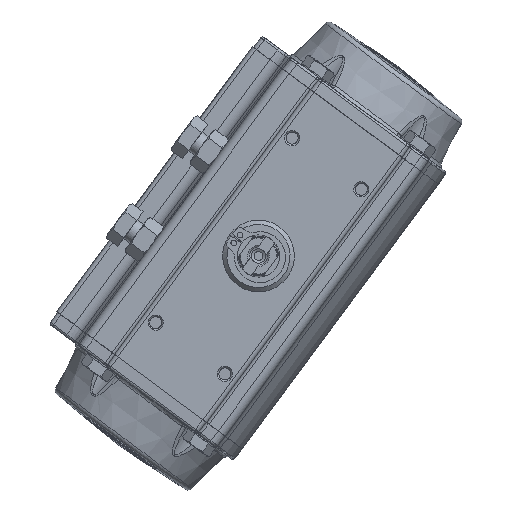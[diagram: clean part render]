
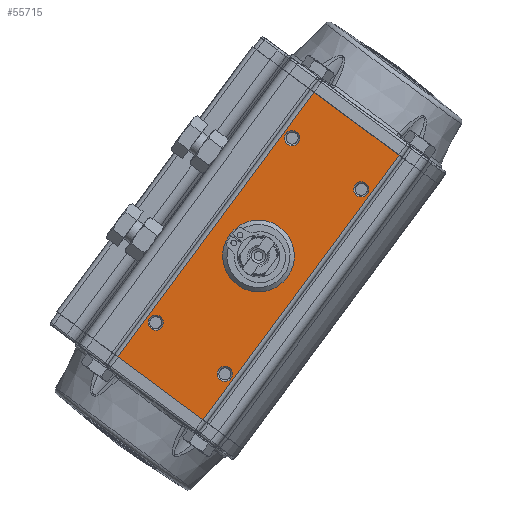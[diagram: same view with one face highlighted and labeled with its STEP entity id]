
A CAD part, left-side view. The second image highlights one B-rep face of the part: STEP entity #55715.
In plain terms, the highlighted planar face has unit normal (-1, 0, 0).
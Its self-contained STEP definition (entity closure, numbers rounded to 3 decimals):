
#8148=CARTESIAN_POINT('',(-110.377,11.08,52.355));
#8149=VERTEX_POINT('',#8148);
#8150=CARTESIAN_POINT('',(-110.377,21.13,59.787));
#8151=DIRECTION('',(1.0,0.,0.));
#8152=DIRECTION('',(0.,-0.804,-0.595));
#8153=AXIS2_PLACEMENT_3D('',#8150,#8151,#8152);
#8154=CIRCLE('',#8153,12.5);
#8155=EDGE_CURVE('',#8149,#8149,#8154,.T.);
#8187=CARTESIAN_POINT('',(-110.377,31.277,20.837));
#8188=VERTEX_POINT('',#8187);
#8189=CARTESIAN_POINT('',(-110.377,32.852,18.707));
#8190=DIRECTION('',(1.0,0.,0.));
#8191=DIRECTION('',(0.,-0.595,0.804));
#8192=AXIS2_PLACEMENT_3D('',#8189,#8190,#8191);
#8193=CIRCLE('',#8192,2.65);
#8194=EDGE_CURVE('',#8188,#8188,#8193,.T.);
#8215=CARTESIAN_POINT('',(-110.377,55.398,38.675));
#8216=VERTEX_POINT('',#8215);
#8217=CARTESIAN_POINT('',(-110.377,56.974,36.544));
#8218=DIRECTION('',(1.0,0.,0.));
#8219=DIRECTION('',(0.,-0.595,0.804));
#8220=AXIS2_PLACEMENT_3D('',#8217,#8218,#8219);
#8221=CIRCLE('',#8220,2.65);
#8222=EDGE_CURVE('',#8216,#8216,#8221,.T.);
#8243=CARTESIAN_POINT('',(-110.377,7.833,102.998));
#8244=VERTEX_POINT('',#8243);
#8245=CARTESIAN_POINT('',(-110.377,9.408,100.867));
#8246=DIRECTION('',(1.0,0.,0.));
#8247=DIRECTION('',(0.,-0.595,0.804));
#8248=AXIS2_PLACEMENT_3D('',#8245,#8246,#8247);
#8249=CIRCLE('',#8248,2.65);
#8250=EDGE_CURVE('',#8244,#8244,#8249,.T.);
#8271=CARTESIAN_POINT('',(-110.377,-16.289,85.161));
#8272=VERTEX_POINT('',#8271);
#8273=CARTESIAN_POINT('',(-110.377,-14.713,83.03));
#8274=DIRECTION('',(1.0,0.,0.));
#8275=DIRECTION('',(0.,-0.595,0.804));
#8276=AXIS2_PLACEMENT_3D('',#8273,#8274,#8275);
#8277=CIRCLE('',#8276,2.65);
#8278=EDGE_CURVE('',#8272,#8272,#8277,.T.);
#48077=CARTESIAN_POINT('',(-110.377,1.877,116.939));
#48078=VERTEX_POINT('',#48077);
#48086=CARTESIAN_POINT('',(-110.377,-27.873,94.94));
#48087=VERTEX_POINT('',#48086);
#48088=CARTESIAN_POINT('',(-110.377,-27.873,94.94));
#48089=DIRECTION('',(0.,0.804,0.595));
#48090=VECTOR('',#48089,37.0);
#48091=LINE('',#48088,#48090);
#48092=EDGE_CURVE('',#48087,#48078,#48091,.T.);
#48488=CARTESIAN_POINT('',(-110.377,70.133,24.634));
#48489=VERTEX_POINT('',#48488);
#48490=CARTESIAN_POINT('',(-110.377,1.877,116.939));
#48491=DIRECTION('',(0.,0.595,-0.804));
#48492=VECTOR('',#48491,114.8);
#48493=LINE('',#48490,#48492);
#48494=EDGE_CURVE('',#48078,#48489,#48493,.T.);
#49380=CARTESIAN_POINT('',(-110.377,40.384,2.635));
#49381=VERTEX_POINT('',#49380);
#49382=CARTESIAN_POINT('',(-110.377,40.384,2.635));
#49383=DIRECTION('',(0.,-0.595,0.804));
#49384=VECTOR('',#49383,114.8);
#49385=LINE('',#49382,#49384);
#49386=EDGE_CURVE('',#49381,#48087,#49385,.T.);
#55650=CARTESIAN_POINT('',(-110.377,70.013,24.545));
#55651=VERTEX_POINT('',#55650);
#55670=CARTESIAN_POINT('',(-110.377,70.133,24.634));
#55671=DIRECTION('',(-1.0,0.0,0.0));
#55672=DIRECTION('',(0.0,-0.595,0.804));
#55673=AXIS2_PLACEMENT_3D('',#55670,#55671,#55672);
#55674=PLANE('',#55673);
#55675=CARTESIAN_POINT('',(-110.377,40.545,2.754));
#55676=VERTEX_POINT('',#55675);
#55677=CARTESIAN_POINT('',(-110.377,40.384,2.635));
#55678=DIRECTION('',(0.0,0.804,0.595));
#55679=VECTOR('',#55678,0.2);
#55680=LINE('',#55677,#55679);
#55681=EDGE_CURVE('',#49381,#55676,#55680,.T.);
#55682=ORIENTED_EDGE('',*,*,#55681,.F.);
#55683=ORIENTED_EDGE('',*,*,#49386,.T.);
#55684=ORIENTED_EDGE('',*,*,#48092,.T.);
#55685=ORIENTED_EDGE('',*,*,#48494,.T.);
#55686=CARTESIAN_POINT('',(-110.377,70.013,24.545));
#55687=DIRECTION('',(0.0,0.804,0.595));
#55688=VECTOR('',#55687,0.15);
#55689=LINE('',#55686,#55688);
#55690=EDGE_CURVE('',#55651,#48489,#55689,.T.);
#55691=ORIENTED_EDGE('',*,*,#55690,.F.);
#55692=CARTESIAN_POINT('',(-110.377,70.013,24.545));
#55693=DIRECTION('',(0.,-0.804,-0.595));
#55694=VECTOR('',#55693,36.65);
#55695=LINE('',#55692,#55694);
#55696=EDGE_CURVE('',#55651,#55676,#55695,.T.);
#55697=ORIENTED_EDGE('',*,*,#55696,.T.);
#55698=EDGE_LOOP('',(#55682,#55683,#55684,#55685,#55691,#55697));
#55699=FACE_OUTER_BOUND('',#55698,.T.);
#55700=ORIENTED_EDGE('',*,*,#8194,.T.);
#55701=EDGE_LOOP('',(#55700));
#55702=FACE_BOUND('',#55701,.T.);
#55703=ORIENTED_EDGE('',*,*,#8222,.T.);
#55704=EDGE_LOOP('',(#55703));
#55705=FACE_BOUND('',#55704,.T.);
#55706=ORIENTED_EDGE('',*,*,#8250,.T.);
#55707=EDGE_LOOP('',(#55706));
#55708=FACE_BOUND('',#55707,.T.);
#55709=ORIENTED_EDGE('',*,*,#8278,.T.);
#55710=EDGE_LOOP('',(#55709));
#55711=FACE_BOUND('',#55710,.T.);
#55712=ORIENTED_EDGE('',*,*,#8155,.T.);
#55713=EDGE_LOOP('',(#55712));
#55714=FACE_BOUND('',#55713,.T.);
#55715=ADVANCED_FACE('',(#55699,#55702,#55705,#55708,#55711,#55714),#55674,.T.);
